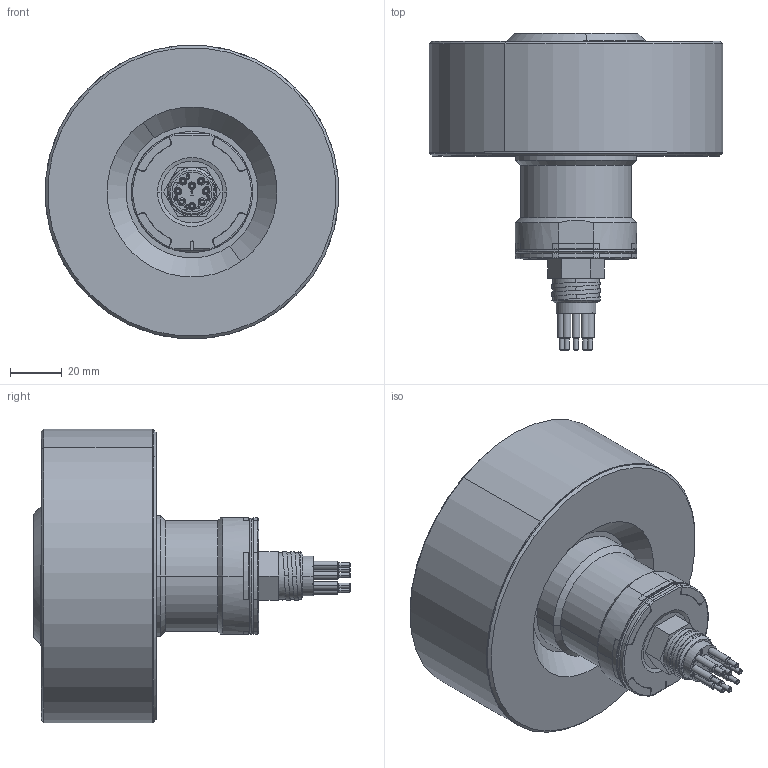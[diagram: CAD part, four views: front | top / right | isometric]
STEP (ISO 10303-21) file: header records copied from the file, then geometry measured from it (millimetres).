
FILE_DESCRIPTION (( 'STEP AP214' ), '1' );
FILE_NAME ('ISS360 HD.STEP', '2022-10-18T09:54:49', ( '' ), ( '' ), 'SwSTEP 2.0', 'SolidWorks 2017', '' );
FILE_SCHEMA (( 'AUTOMOTIVE_DESIGN' ));
Length unit declared in the file: millimetre
Products named in the file (1): ISS360 HD
Bounding box: 113.98 x 122.9 x 113.98 mm (x, y, z)
Surface area: 54113.2 mm2 (no closed solid volume)
Topology: 0 solids, 11 shells, 341 faces, 1138 edges, 809 vertices
Faces by surface type: cylinder 151, plane 89, cone 51, torus 27, bspline 23
Entity records: 18748 total; most frequent: CARTESIAN_POINT 5424, DIRECTION 1962, ORIENTED_EDGE 1856, EDGE_CURVE 1138, VERTEX_POINT 809, AXIS2_PLACEMENT_3D 747, LINE 468, VECTOR 468
